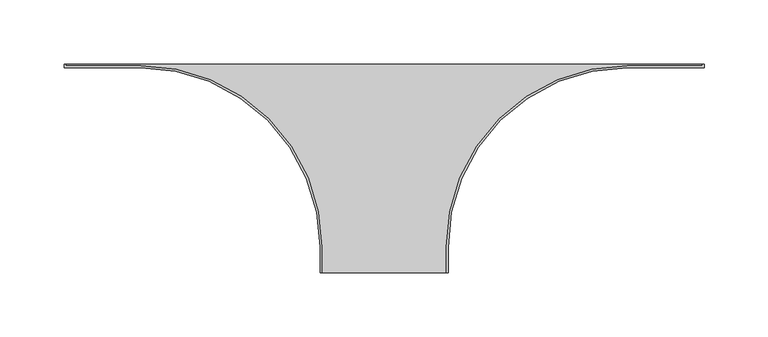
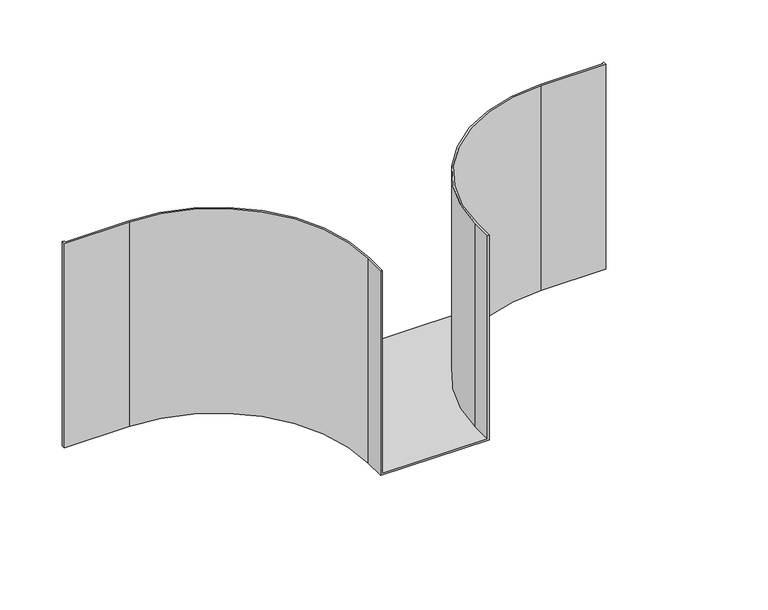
"""IFC4 building model written with IfcOpenShell, lengths in millimetres: cable carrier fitting geometry, BAKS_Tee_TKZD : TKZDPH200."""

from ifc_helpers import new_model, si_unit, frame, origin, place, context, project, spatial, polyline, circle_curve, source, transform, mapped, element, save
from ifc_brep_helpers import plane_surface, cylinder_surface, revolved_surface, advanced_brep


def cable_carrier_fitting_b06f5239(model_context):
    return source(origin(), model_context, "Body", "AdvancedBrep", [
        advanced_brep(
        [(-50.0, -143.0, 100.0), (-50.0, -163.0, 100.0), (-48.5, -163.0, 100.0), (-48.5, -143.0, 100.0), (-190.0, -1.5, 100.0), (-248.5, -1.5, 100.0), (-248.5, 0.0, 100.0), (-250.0, 0.0, 100.0), (-250.0, -3.0, 100.0), (-190.0, -3.0, 100.0), (50.0, -143.0, 100.0), (190.0, -3.0, 100.0), (250.0, -3.0, 100.0), (250.0, 0.0, 100.0), (248.5, 0.0, 100.0), (248.5, -1.5, 100.0), (190.0, -1.5, 100.0), (48.5, -143.0, 100.0), (48.5, -163.0, 100.0), (50.0, -163.0, 100.0), (-50.0, -143.0, -100.0), (-190.0, -3.0, -100.0), (-250.0, -3.0, -100.0), (-250.0, 0.0, -100.0), (250.0, 0.0, -100.0), (250.0, -3.0, -100.0), (190.0, -3.0, -100.0), (50.0, -143.0, -100.0), (50.0, -163.0, -100.0), (-50.0, -163.0, -100.0), (-50.0, -143.0, -98.5), (48.5, -163.0, -98.5), (-48.5, -163.0, -98.5), (-48.5, -143.0, -98.5), (-190.0, -1.5, -98.5), (-248.5, -1.5, -98.5), (-190.0, -3.0, -98.5), (50.0, -143.0, -98.5), (190.0, -3.0, -98.5), (248.5, -1.5, -98.5), (190.0, -1.5, -98.5), (48.5, -143.0, -98.5), (248.5, 0.0, -98.5), (-248.5, 0.0, -98.5)],
        [
            (0, 1),
            (1, 2),
            (2, 3),
            (3, 4, circle_curve(frame((-190.0, -143.0, 100.0), z_axis=(0.0, 0.0, 1.0), x_axis=(1.0, 0.0, 0.0)), 141.5)),
            (4, 5),
            (5, 6),
            (6, 7),
            (7, 8),
            (8, 9),
            (9, 0, circle_curve(frame((-190.0, -143.0, 100.0), z_axis=(0.0, 0.0, -1.0), x_axis=(1.0, 0.0, 0.0)), 140.0)),
            (10, 11, circle_curve(frame((190.0, -143.0, 100.0), z_axis=(0.0, 0.0, -1.0), x_axis=(1.0, 0.0, 0.0)), 140.0)),
            (11, 12),
            (12, 13),
            (13, 14),
            (14, 15),
            (15, 16),
            (16, 17, circle_curve(frame((190.0, -143.0, 100.0), z_axis=(0.0, 0.0, 1.0), x_axis=(1.0, 0.0, 0.0)), 141.5)),
            (17, 18),
            (18, 19),
            (19, 10),
            (20, 21, circle_curve(frame((-190.0, -143.0, -100.0), z_axis=(0.0, 0.0, 1.0), x_axis=(1.0, 0.0, 0.0)), 140.0)),
            (21, 22),
            (22, 23),
            (23, 24),
            (24, 25),
            (25, 26),
            (26, 27, circle_curve(frame((190.0, -143.0, -100.0), z_axis=(0.0, 0.0, 1.0), x_axis=(1.0, 0.0, 0.0)), 140.0)),
            (27, 28),
            (28, 29),
            (29, 20),
            (29, 1),
            (0, 30),
            (30, 20),
            (28, 19),
            (18, 31),
            (31, 32),
            (32, 2),
            (32, 33),
            (33, 3),
            (33, 34, circle_curve(frame((-190.0, -143.0, -98.5), z_axis=(0.0, 0.0, 1.0), x_axis=(1.0, 0.0, 0.0)), 141.5)),
            (34, 4),
            (34, 35),
            (35, 5),
            (8, 22),
            (21, 36),
            (36, 9),
            (10, 37),
            (37, 27),
            (26, 38),
            (38, 11),
            (25, 12),
            (15, 39),
            (39, 40),
            (40, 16),
            (40, 41, circle_curve(frame((190.0, -143.0, -98.5), z_axis=(0.0, 0.0, 1.0), x_axis=(1.0, 0.0, 0.0)), 141.5)),
            (41, 17),
            (41, 31),
            (42, 43),
            (43, 35),
            (39, 42),
            (43, 6),
            (42, 14),
            (13, 24),
            (23, 7),
        ],
        [
            plane_surface(frame((-50.0, -143.0, 100.0), z_axis=(0.0, 0.0, 1.0), x_axis=(0.0, -1.0, 0.0))),
            plane_surface(frame((-50.0, -143.0, -100.0), z_axis=(0.0, 0.0, -1.0), x_axis=(0.0, 1.0, 0.0))),
            plane_surface(frame((-50.0, -143.0, 100.0), z_axis=(-1.0, 0.0, 0.0), x_axis=(0.0, 0.0, -1.0))),
            plane_surface(frame((-50.0, -163.0, 100.0), z_axis=(0.0, -1.0, 0.0), x_axis=(0.0, 0.0, -1.0))),
            plane_surface(frame((-48.5, -163.0, 100.0), z_axis=(1.0, 0.0, 0.0), x_axis=(0.0, 0.0, -1.0))),
            cylinder_surface(frame((-190.0, -143.0, -100.0), z_axis=(0.0, 0.0, 1.0), x_axis=(1.0, 0.0, 0.0)), 141.5),
            plane_surface(frame((-190.0, -1.5, 100.0), z_axis=(0.0, 1.0, 0.0), x_axis=(0.0, 0.0, -1.0))),
            plane_surface(frame((-250.0, -3.0, 100.0), z_axis=(0.0, -1.0, 0.0), x_axis=(0.0, 0.0, -1.0))),
            revolved_surface(polyline([(-50.0, -143.0, -100.0), (-50.0, -143.0, 100.0)]), (-190.0, -143.0, -100.0), (0.0, 0.0, -1.0)),
            revolved_surface(polyline([(330.0, -143.0, -100.0), (330.0, -143.0, 100.0)]), (190.0, -143.0, 0.0), (0.0, 0.0, -1.0)),
            plane_surface(frame((190.0, -3.0, 100.0), z_axis=(0.0, -1.0, 0.0), x_axis=(0.0, 0.0, -1.0))),
            plane_surface(frame((248.5, -1.5, 100.0), z_axis=(0.0, 1.0, 0.0), x_axis=(0.0, 0.0, -1.0))),
            cylinder_surface(frame((190.0, -143.0, 0.0), z_axis=(0.0, 0.0, 1.0), x_axis=(1.0, 0.0, 0.0)), 141.5),
            plane_surface(frame((48.5, -143.0, 100.0), z_axis=(-1.0, 0.0, 0.0), x_axis=(0.0, 0.0, -1.0))),
            plane_surface(frame((50.0, -163.0, 100.0), z_axis=(1.0, 0.0, 0.0), x_axis=(0.0, 0.0, -1.0))),
            plane_surface(frame((-50.0, -143.0, -98.5), z_axis=(0.0, 0.0, 1.0), x_axis=(0.0, -1.0, 0.0))),
            plane_surface(frame((-248.5, -1.5, 100.0), z_axis=(1.0, 0.0, 0.0), x_axis=(0.0, 0.0, -1.0))),
            plane_surface(frame((-248.5, 0.0, 100.0), z_axis=(0.0, 1.0, 0.0), x_axis=(0.0, 0.0, -1.0))),
            plane_surface(frame((-250.0, 0.0, 100.0), z_axis=(-1.0, 0.0, 0.0), x_axis=(0.0, 0.0, -1.0))),
            plane_surface(frame((250.0, -3.0, 100.0), z_axis=(1.0, 0.0, 0.0), x_axis=(0.0, 0.0, -1.0))),
            plane_surface(frame((248.5, 0.0, 100.0), z_axis=(-1.0, 0.0, 0.0), x_axis=(0.0, 0.0, -1.0))),
        ],
        [
            (0, [[1, 2, 3, 4, 5, 6, 7, 8, 9, 10]]),
            (0, [[11, 12, 13, 14, 15, 16, 17, 18, 19, 20]]),
            (1, [[21, 22, 23, 24, 25, 26, 27, 28, 29, 30]]),
            (2, [[31, -1, 32, 33, -30]]),
            (3, [[-2, -31, -29, 34, -19, 35, 36, 37]]),
            (4, [[-3, -37, 38, 39]]),
            (5, [[-4, -39, 40, 41]]),
            (6, [[-5, -41, 42, 43]]),
            (7, [[-9, 44, -22, 45, 46]]),
            (8, [[-10, -46, -45, -21, -33, -32]]),
            (9, [[-11, 47, 48, -27, 49, 50]]),
            (10, [[-12, -50, -49, -26, 51]]),
            (11, [[-16, 52, 53, 54]]),
            (12, [[-17, -54, 55, 56]]),
            (13, [[-18, -56, 57, -35]]),
            (14, [[-20, -34, -28, -48, -47]]),
            (15, [[58, 59, -42, -40, -38, -36, -57, -55, -53, 60]]),
            (16, [[-6, -43, -59, 61]]),
            (17, [[-7, -61, -58, 62, -14, 63, -24, 64]]),
            (18, [[-8, -64, -23, -44]]),
            (19, [[-13, -51, -25, -63]]),
            (20, [[-15, -62, -60, -52]]),
        ],
    ),
    ])


if __name__ == "__main__":
    model = new_model("IFC4")
    model_context = context("Model", 3, world=origin())
    ifc_project = project(units=[si_unit("LENGTHUNIT", "METRE", prefix="MILLI")], contexts=[model_context])
    site = spatial("IfcSite", under=ifc_project)
    building = spatial("IfcBuilding", under=site)
    placement = place(None, origin())
    cable_carrier_fitting_shape = cable_carrier_fitting_b06f5239(model_context)
    element("IfcCableCarrierFitting", 1, ObjectType="BAKS_Tee_TKZD : TKZDPH200", at=placement, inside=building, context=model_context, shape_type="MappedRepresentation", body=[
        mapped(cable_carrier_fitting_shape, transform((0.0, 0.0, 0.0), x_axis=(1.0, 0.0, 0.0), y_axis=(0.0, 1.0, 0.0), z_axis=(0.0, 0.0, 1.0))),
    ])
    save(model, "model.ifc")
